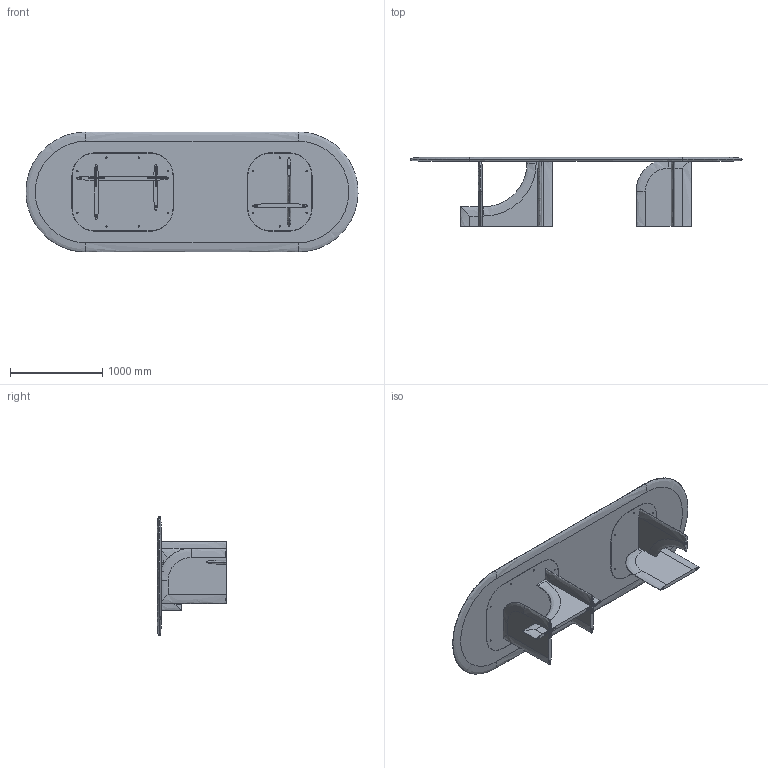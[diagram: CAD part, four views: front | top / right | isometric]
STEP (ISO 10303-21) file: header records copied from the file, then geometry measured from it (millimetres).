
FILE_DESCRIPTION (( 'STEP AP214' ), '1' );
FILE_NAME ('SELCE T 3600 x 1300.STEP', '2025-05-27T08:55:56', ( '' ), ( '' ), 'SwSTEP 2.0', 'SolidWorks 2023', '' );
FILE_SCHEMA (( 'AUTOMOTIVE_DESIGN' ));
Length unit declared in the file: millimetre
Products named in the file (9): CROCE FERRO; SCIVOLO_IPEA_20PTPD007N; GAMBE e PIASTRA_PIASTRA B; GAMBE e PIASTRA_GAMBA A; SELCE T 3600 x 1300; TOP_3600 x 1300; ISO 7380 - M8 x 20; GAMBE e PIASTRA_GAMBA B; GAMBE e PIASTRA_PIASTRA A
Assembly tree (32 placements, depth 2):
  SELCE T 3600 x 1300
    TOP_3600 x 1300
    GAMBE e PIASTRA_GAMBA A
    GAMBE e PIASTRA_GAMBA B
    GAMBE e PIASTRA_PIASTRA A
    GAMBE e PIASTRA_PIASTRA B
    CROCE FERRO  x4
    SCIVOLO_IPEA_20PTPD007N  x9
    ISO 7380 - M8 x 20  x14
Bounding box: 3599.66 x 749 x 1300 mm (x, y, z)
Volume: 230126307.4 mm3; surface area: 15697138.3 mm2
Topology: 38 solids, 38 shells, 2483 faces, 6017 edges, 3571 vertices
Faces by surface type: cone 1052, cylinder 824, plane 474, bspline 133
Entity records: 28470 total; most frequent: CARTESIAN_POINT 8669, DIRECTION 4134, ORIENTED_EDGE 3918, EDGE_CURVE 1959, AXIS2_PLACEMENT_3D 1576, VERTEX_POINT 1240, EDGE_LOOP 1021, LINE 982
